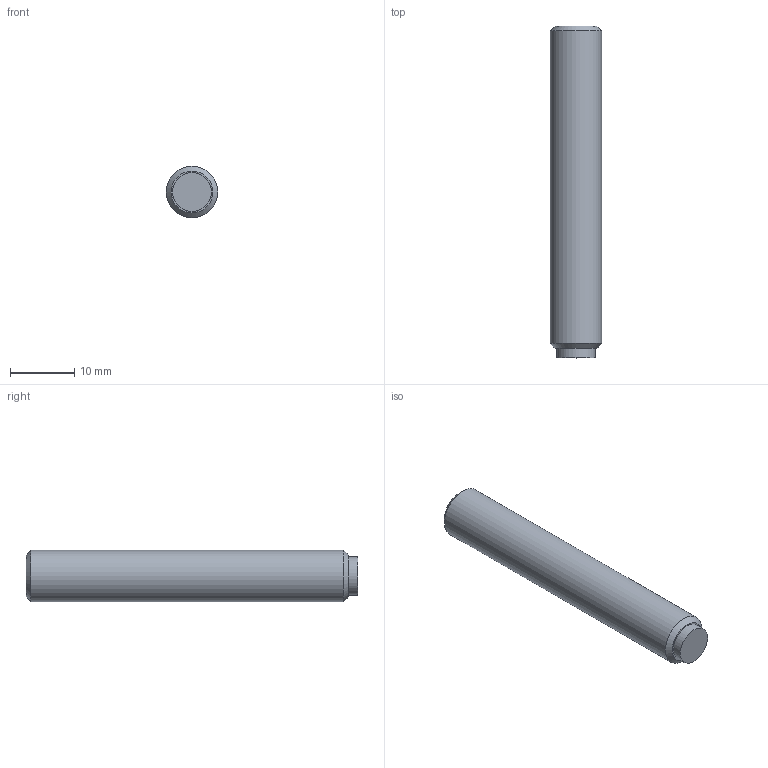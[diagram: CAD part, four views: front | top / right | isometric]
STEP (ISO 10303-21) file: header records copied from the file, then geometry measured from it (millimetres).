
FILE_DESCRIPTION( ( 'STEP AP203' ), '1' );
FILE_NAME( 'C:/Temp/Ganter_Step_05_03_2020/data/3_2/gn913_3/Grub screw GN 913.3-M8-50-MS.stp', '2020-03-13T05:35:51', ( 'License CC BY-ND 4.0' ), ( 'CADENAS' ), ' ', 'PARTsolutions', ' ' );
FILE_SCHEMA( ( 'CONFIG_CONTROL_DESIGN' ) );
Length unit declared in the file: millimetre
Products named in the file (1): _Grub screw GN 913.3-M8-50-MS
Bounding box: 8 x 51.5 x 8 mm (x, y, z)
Volume: 2472.6 mm3; surface area: 1430.6 mm2
Topology: 1 solids, 1 shells, 14 faces, 28 edges, 18 vertices
Faces by surface type: plane 10, cylinder 2, cone 2
Full cylindrical faces by diameter (mm): 6 x1, 8 x1
Entity records: 386 total; most frequent: DIRECTION 60, CARTESIAN_POINT 57, ORIENTED_EDGE 48, EDGE_CURVE 24, AXIS2_PLACEMENT_3D 21, EDGE_LOOP 20, VERTEX_POINT 18, LINE 18
